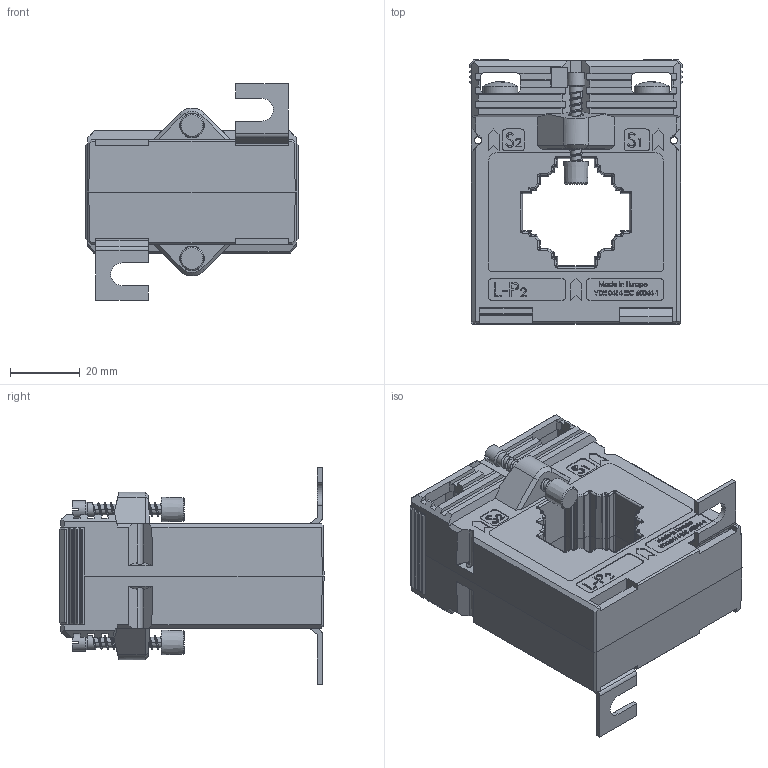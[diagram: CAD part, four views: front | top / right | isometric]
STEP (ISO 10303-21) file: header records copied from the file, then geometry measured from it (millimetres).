
FILE_DESCRIPTION(/* description */ (''),/* implementation_level */ '2;1');
FILE_NAME(/* name */ 'ASK31.3.stp',/* time_stamp */ '2024-02-01T08:08:31+01:00',/* author */ ('JDI'),/* organization */ (''),/* preprocessor_version */ 'ST-DEVELOPER v19.2',/* originating_system */ 'Autodesk Inventor 2023',/* authorisation */ '');
FILE_SCHEMA (('AUTOMOTIVE_DESIGN { 1 0 10303 214 3 1 1 }'));
Products named in the file (1): ASK31.3.ipt_Simplify_1
Bounding box: 61 x 75.5 x 62 mm (x, y, z)
Volume: 108989.8 mm3; surface area: 29760.9 mm2
Topology: 1 solids, 1 shells, 2154 faces, 5657 edges, 3547 vertices
Faces by surface type: plane 1336, bspline 474, cylinder 258, cone 60, torus 20, sphere 6
Full cylindrical faces by diameter (mm): 2.95 x2, 3 x26, 3.8 x4, 4 x12, 4.1 x2, 5 x2, 10 x4
Entity records: 94104 total; most frequent: CARTESIAN_POINT 42116, ORIENTED_EDGE 11218, DIRECTION 8757, EDGE_CURVE 5609, LINE 3885, VECTOR 3885, VERTEX_POINT 3547, AXIS2_PLACEMENT_3D 2436
